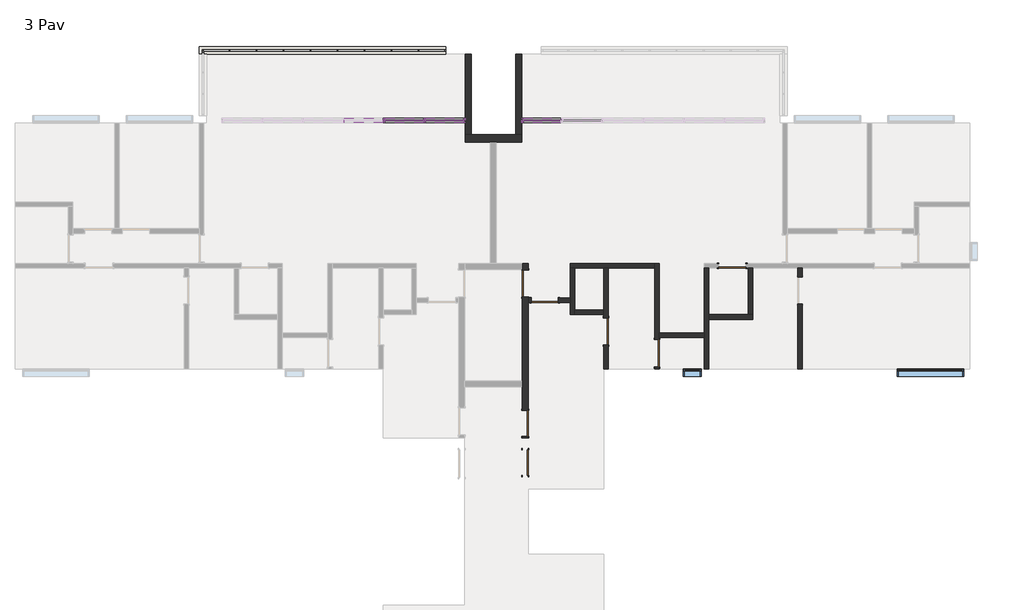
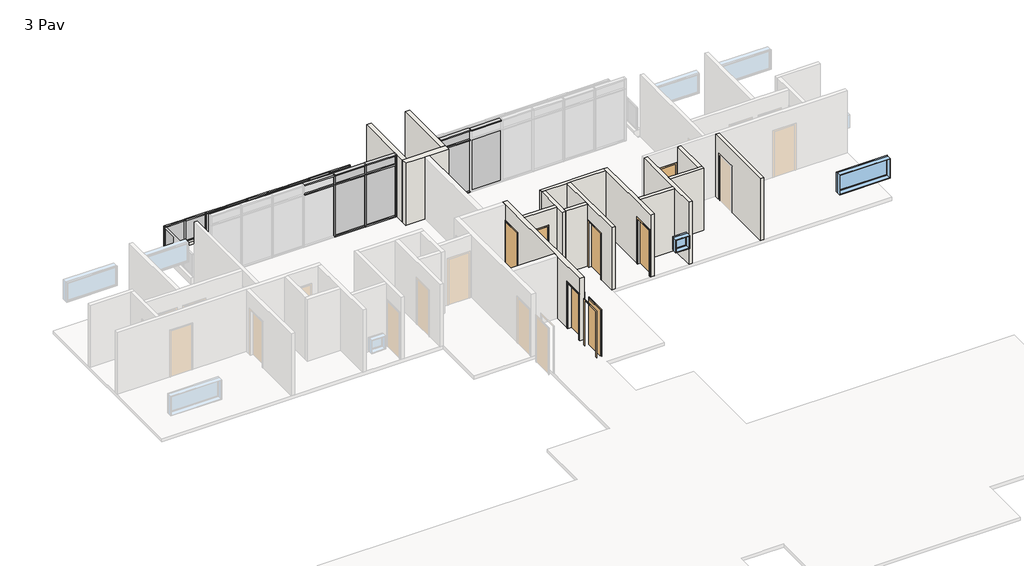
# One storey, part 5 of 6: 50 members, 17 plates, 16 walls, 7 doors, 2 windows.
"""IFC4 building model written with IfcOpenShell, lengths in millimetres."""

from ifc_helpers import new_model, si_unit, frame, origin, place, context, project, spatial, polyline, outline, extrude, faceted_brep, transform, mapped, element, save
from components import door_85_x_210_ba3adec2, door_85_x_210_7675e995, door_90_x_210_2c83007d, door_90_x_210_ee935524, door_90_x_210_565370b3, montante_retangular_50_mm_quadrado_4acded50, montante_retangular_50_mm_quadrado_237d7072, montante_retangular_50_mm_quadrado_84e40a56, montante_retangular_50_mm_quadrado_3d152aff, montante_retangular_50_mm_quadrado_a01005a4, montante_retangular_50_x_150_mm_6217edde, montante_retangular_50_x_150_mm_a22249d7, montante_retangular_50_x_150_mm_6225e4e3, montante_retangular_50_x_150_mm_662c37b1, montante_retangular_50_x_150_mm_567eccab, montante_retangular_50_x_150_mm_1ca2bba2, montante_retangular_50_x_150_mm_6abf4531, montante_retangular_50_x_150_mm_0a8c3443, painel_do_sistema_57ceaf50, painel_do_sistema_ab0ed719, painel_do_sistema_0196877a, painel_do_sistema_1ecb5f42, painel_do_sistema_49db1829, painel_do_sistema_5ea5287b, painel_do_sistema_7730abee, window_0610_x_0610_mm_b5667cc9, window_220_x_90_cea65aae

model = new_model("IFC4")

# Units and contexts
model_context = context("Model", 3, world=origin())
ifc_project = project(units=[si_unit("LENGTHUNIT", "METRE", prefix="MILLI")], contexts=[model_context])

# Site, building, storey
site = spatial("IfcSite", under=ifc_project)
building = spatial("IfcBuilding", under=site)
storey = spatial("IfcBuildingStorey", under=building, Name="3 Pav", Elevation=9000.0)

# Doors
placement = place(None, origin())
door_85_x_210_shape = door_85_x_210_ba3adec2(model_context)
element("IfcDoor", 1, ObjectType="M_Descarga simples : 85 x 210", at=placement, inside=storey, context=model_context, shape_type="MappedRepresentation", body=[
    mapped(door_85_x_210_shape, transform((23.7734258, 2728.6614625, 9000.0), x_axis=(0.0, 1.0, 0.0), y_axis=(-1.0, 0.0, 0.0), z_axis=(0.0, 0.0, 1.0))),
])
door_85_x_210_2_shape = door_85_x_210_7675e995(model_context)
element("IfcDoor", 2, ObjectType="M_Descarga simples : 85 x 210", at=placement, inside=storey, context=model_context, shape_type="MappedRepresentation", body=[
    mapped(door_85_x_210_2_shape, transform((23.7734258, 4028.6614625, 9000.0), x_axis=(0.0, -1.0, 0.0), y_axis=(1.0, 0.0, 0.0), z_axis=(0.0, 0.0, 1.0))),
])
door_90_x_210_shape = door_90_x_210_2c83007d(model_context)
element("IfcDoor", 3, ObjectType="M_Descarga simples : 90 x 210", at=placement, inside=storey, context=model_context, shape_type="MappedRepresentation", body=[
    mapped(door_90_x_210_shape, transform((23.7734258, 8673.2521762, 9000.0), x_axis=(0.0, 1.0, 0.0), y_axis=(-1.0, 0.0, 0.0), z_axis=(0.0, 0.0, 1.0))),
])
door_90_x_210_2_shape = door_90_x_210_ee935524(model_context)
element("IfcDoor", 4, ObjectType="M_Descarga simples : 90 x 210", at=placement, inside=storey, context=model_context, shape_type="MappedRepresentation", body=[
    mapped(door_90_x_210_2_shape, transform((673.7734258, 8118.6614625, 9000.0), x_axis=(-1.0, 0.0, 0.0), y_axis=(0.0, -1.0, 0.0), z_axis=(0.0, 0.0, 1.0))),
])
element("IfcDoor", 5, ObjectType="M_Descarga simples : 90 x 210", at=placement, inside=storey, context=model_context, shape_type="MappedRepresentation", body=[
    mapped(door_90_x_210_2_shape, transform((2698.7734258, 7083.6614625, 9000.0), x_axis=(0.0, -1.0, 0.0), y_axis=(1.0, 0.0, 0.0), z_axis=(0.0, 0.0, 1.0))),
])
element("IfcDoor", 6, ObjectType="M_Descarga simples : 90 x 210", at=placement, inside=storey, context=model_context, shape_type="MappedRepresentation", body=[
    mapped(door_90_x_210_2_shape, transform((4388.7734258, 6358.6614625, 9000.0), x_axis=(0.0, -1.0, 0.0), y_axis=(1.0, 0.0, 0.0), z_axis=(0.0, 0.0, 1.0))),
])
door_90_x_210_3_shape = door_90_x_210_565370b3(model_context)
element("IfcDoor", 7, ObjectType="M_Descarga simples : 90 x 210", at=placement, inside=storey, context=model_context, shape_type="MappedRepresentation", body=[
    mapped(door_90_x_210_3_shape, transform((6883.7734258, 9258.6614625, 9000.0), x_axis=(1.0, 0.0, 0.0), y_axis=(0.0, 1.0, 0.0), z_axis=(0.0, 0.0, 1.0))),
])

# Members
montante_retangular_50_mm_quadrado_shape = montante_retangular_50_mm_quadrado_4acded50(model_context)
element("IfcMember", 8, ObjectType="Montante retangular : 50 mm Quadrado", at=placement, inside=storey, context=model_context, shape_type="MappedRepresentation", body=[
    mapped(montante_retangular_50_mm_quadrado_shape, transform((-10616.2265742, 16403.6614625, 10150.0), x_axis=(0.0, 0.0, 1.0), y_axis=(0.0, 1.0, 0.0), z_axis=(-1.0, 0.0, 0.0))),
])
element("IfcMember", 9, ObjectType="Montante retangular : 50 mm Quadrado", at=placement, inside=storey, context=model_context, shape_type="MappedRepresentation", body=[
    mapped(montante_retangular_50_mm_quadrado_shape, transform((-3481.2265742, 16403.6614625, 10150.0), x_axis=(0.0, 0.0, 1.0), y_axis=(0.0, 1.0, 0.0), z_axis=(-1.0, 0.0, 0.0))),
])
montante_retangular_50_mm_quadrado_2_shape = montante_retangular_50_mm_quadrado_237d7072(model_context)
element("IfcMember", 10, ObjectType="Montante retangular : 50 mm Quadrado", at=placement, inside=storey, context=model_context, shape_type="MappedRepresentation", body=[
    mapped(montante_retangular_50_mm_quadrado_2_shape, transform((-4376.2265742, 16403.6614625, 10150.0), x_axis=(0.0, 0.0, 1.0), y_axis=(0.0, 1.0, 0.0), z_axis=(-1.0, 0.0, 0.0))),
])
element("IfcMember", 11, ObjectType="Montante retangular : 50 mm Quadrado", at=placement, inside=storey, context=model_context, shape_type="MappedRepresentation", body=[
    mapped(montante_retangular_50_mm_quadrado_2_shape, transform((-5271.2265742, 16403.6614625, 10150.0), x_axis=(0.0, 0.0, 1.0), y_axis=(0.0, 1.0, 0.0), z_axis=(-1.0, 0.0, 0.0))),
])
element("IfcMember", 12, ObjectType="Montante retangular : 50 mm Quadrado", at=placement, inside=storey, context=model_context, shape_type="MappedRepresentation", body=[
    mapped(montante_retangular_50_mm_quadrado_2_shape, transform((-6166.2265742, 16403.6614625, 10150.0), x_axis=(0.0, 0.0, 1.0), y_axis=(0.0, 1.0, 0.0), z_axis=(-1.0, 0.0, 0.0))),
])
element("IfcMember", 13, ObjectType="Montante retangular : 50 mm Quadrado", at=placement, inside=storey, context=model_context, shape_type="MappedRepresentation", body=[
    mapped(montante_retangular_50_mm_quadrado_2_shape, transform((-7061.2265742, 16403.6614625, 10150.0), x_axis=(0.0, 0.0, 1.0), y_axis=(0.0, 1.0, 0.0), z_axis=(-1.0, 0.0, 0.0))),
])
element("IfcMember", 14, ObjectType="Montante retangular : 50 mm Quadrado", at=placement, inside=storey, context=model_context, shape_type="MappedRepresentation", body=[
    mapped(montante_retangular_50_mm_quadrado_2_shape, transform((-7956.2265742, 16403.6614625, 10150.0), x_axis=(0.0, 0.0, 1.0), y_axis=(0.0, 1.0, 0.0), z_axis=(-1.0, 0.0, 0.0))),
])
element("IfcMember", 15, ObjectType="Montante retangular : 50 mm Quadrado", at=placement, inside=storey, context=model_context, shape_type="MappedRepresentation", body=[
    mapped(montante_retangular_50_mm_quadrado_2_shape, transform((-8851.2265742, 16403.6614625, 10150.0), x_axis=(0.0, 0.0, 1.0), y_axis=(0.0, 1.0, 0.0), z_axis=(-1.0, 0.0, 0.0))),
])
element("IfcMember", 16, ObjectType="Montante retangular : 50 mm Quadrado", at=placement, inside=storey, context=model_context, shape_type="MappedRepresentation", body=[
    mapped(montante_retangular_50_mm_quadrado_2_shape, transform((-9746.2265742, 16403.6614625, 10150.0), x_axis=(0.0, 0.0, 1.0), y_axis=(0.0, 1.0, 0.0), z_axis=(-1.0, 0.0, 0.0))),
])
element("IfcMember", 17, ObjectType="Montante retangular : 50 mm Quadrado", at=placement, inside=storey, context=model_context, shape_type="MappedRepresentation", body=[
    mapped(montante_retangular_50_mm_quadrado_shape, transform((-2661.2265742, 16403.6614625, 9150.0), x_axis=(0.0, 0.0, -1.0), y_axis=(0.0, 1.0, 0.0), z_axis=(1.0, 0.0, 0.0))),
])
element("IfcMember", 18, ObjectType="Montante retangular : 50 mm Quadrado", at=placement, inside=storey, context=model_context, shape_type="MappedRepresentation", body=[
    mapped(montante_retangular_50_mm_quadrado_shape, transform((-9796.2265742, 16403.6614625, 9150.0), x_axis=(0.0, 0.0, -1.0), y_axis=(0.0, 1.0, 0.0), z_axis=(1.0, 0.0, 0.0))),
])
element("IfcMember", 19, ObjectType="Montante retangular : 50 mm Quadrado", at=placement, inside=storey, context=model_context, shape_type="MappedRepresentation", body=[
    mapped(montante_retangular_50_mm_quadrado_2_shape, transform((-3531.2265742, 16403.6614625, 9150.0), x_axis=(0.0, 0.0, -1.0), y_axis=(0.0, 1.0, 0.0), z_axis=(1.0, 0.0, 0.0))),
])
element("IfcMember", 20, ObjectType="Montante retangular : 50 mm Quadrado", at=placement, inside=storey, context=model_context, shape_type="MappedRepresentation", body=[
    mapped(montante_retangular_50_mm_quadrado_2_shape, transform((-4426.2265742, 16403.6614625, 9150.0), x_axis=(0.0, 0.0, -1.0), y_axis=(0.0, 1.0, 0.0), z_axis=(1.0, 0.0, 0.0))),
])
element("IfcMember", 21, ObjectType="Montante retangular : 50 mm Quadrado", at=placement, inside=storey, context=model_context, shape_type="MappedRepresentation", body=[
    mapped(montante_retangular_50_mm_quadrado_2_shape, transform((-5321.2265742, 16403.6614625, 9150.0), x_axis=(0.0, 0.0, -1.0), y_axis=(0.0, 1.0, 0.0), z_axis=(1.0, 0.0, 0.0))),
])
element("IfcMember", 22, ObjectType="Montante retangular : 50 mm Quadrado", at=placement, inside=storey, context=model_context, shape_type="MappedRepresentation", body=[
    mapped(montante_retangular_50_mm_quadrado_2_shape, transform((-6216.2265742, 16403.6614625, 9150.0), x_axis=(0.0, 0.0, -1.0), y_axis=(0.0, 1.0, 0.0), z_axis=(1.0, 0.0, 0.0))),
])
element("IfcMember", 23, ObjectType="Montante retangular : 50 mm Quadrado", at=placement, inside=storey, context=model_context, shape_type="MappedRepresentation", body=[
    mapped(montante_retangular_50_mm_quadrado_2_shape, transform((-7111.2265742, 16403.6614625, 9150.0), x_axis=(0.0, 0.0, -1.0), y_axis=(0.0, 1.0, 0.0), z_axis=(1.0, 0.0, 0.0))),
])
element("IfcMember", 24, ObjectType="Montante retangular : 50 mm Quadrado", at=placement, inside=storey, context=model_context, shape_type="MappedRepresentation", body=[
    mapped(montante_retangular_50_mm_quadrado_2_shape, transform((-8006.2265742, 16403.6614625, 9150.0), x_axis=(0.0, 0.0, -1.0), y_axis=(0.0, 1.0, 0.0), z_axis=(1.0, 0.0, 0.0))),
])
element("IfcMember", 25, ObjectType="Montante retangular : 50 mm Quadrado", at=placement, inside=storey, context=model_context, shape_type="MappedRepresentation", body=[
    mapped(montante_retangular_50_mm_quadrado_2_shape, transform((-8901.2265742, 16403.6614625, 9150.0), x_axis=(0.0, 0.0, -1.0), y_axis=(0.0, 1.0, 0.0), z_axis=(1.0, 0.0, 0.0))),
])
montante_retangular_50_mm_quadrado_3_shape = montante_retangular_50_mm_quadrado_84e40a56(model_context)
element("IfcMember", 26, ObjectType="Montante retangular : 50 mm Quadrado", at=placement, inside=storey, context=model_context, shape_type="MappedRepresentation", body=[
    mapped(montante_retangular_50_mm_quadrado_3_shape, transform((-3506.2265742, 16403.6614625, 9150.0), x_axis=(-1.0, 0.0, 0.0), y_axis=(0.0, 1.0, 0.0), z_axis=(0.0, 0.0, -1.0))),
])
element("IfcMember", 27, ObjectType="Montante retangular : 50 mm Quadrado", at=placement, inside=storey, context=model_context, shape_type="MappedRepresentation", body=[
    mapped(montante_retangular_50_mm_quadrado_3_shape, transform((-4401.2265742, 16403.6614625, 9150.0), x_axis=(-1.0, 0.0, 0.0), y_axis=(0.0, 1.0, 0.0), z_axis=(0.0, 0.0, -1.0))),
])
element("IfcMember", 28, ObjectType="Montante retangular : 50 mm Quadrado", at=placement, inside=storey, context=model_context, shape_type="MappedRepresentation", body=[
    mapped(montante_retangular_50_mm_quadrado_3_shape, transform((-5296.2265742, 16403.6614625, 9150.0), x_axis=(-1.0, 0.0, 0.0), y_axis=(0.0, 1.0, 0.0), z_axis=(0.0, 0.0, -1.0))),
])
element("IfcMember", 29, ObjectType="Montante retangular : 50 mm Quadrado", at=placement, inside=storey, context=model_context, shape_type="MappedRepresentation", body=[
    mapped(montante_retangular_50_mm_quadrado_3_shape, transform((-6191.2265742, 16403.6614625, 9150.0), x_axis=(-1.0, 0.0, 0.0), y_axis=(0.0, 1.0, 0.0), z_axis=(0.0, 0.0, -1.0))),
])
element("IfcMember", 30, ObjectType="Montante retangular : 50 mm Quadrado", at=placement, inside=storey, context=model_context, shape_type="MappedRepresentation", body=[
    mapped(montante_retangular_50_mm_quadrado_3_shape, transform((-7086.2265742, 16403.6614625, 9150.0), x_axis=(-1.0, 0.0, 0.0), y_axis=(0.0, 1.0, 0.0), z_axis=(0.0, 0.0, -1.0))),
])
element("IfcMember", 31, ObjectType="Montante retangular : 50 mm Quadrado", at=placement, inside=storey, context=model_context, shape_type="MappedRepresentation", body=[
    mapped(montante_retangular_50_mm_quadrado_3_shape, transform((-7981.2265742, 16403.6614625, 9150.0), x_axis=(-1.0, 0.0, 0.0), y_axis=(0.0, 1.0, 0.0), z_axis=(0.0, 0.0, -1.0))),
])
element("IfcMember", 32, ObjectType="Montante retangular : 50 mm Quadrado", at=placement, inside=storey, context=model_context, shape_type="MappedRepresentation", body=[
    mapped(montante_retangular_50_mm_quadrado_3_shape, transform((-8876.2265742, 16403.6614625, 9150.0), x_axis=(-1.0, 0.0, 0.0), y_axis=(0.0, 1.0, 0.0), z_axis=(0.0, 0.0, -1.0))),
])
element("IfcMember", 33, ObjectType="Montante retangular : 50 mm Quadrado", at=placement, inside=storey, context=model_context, shape_type="MappedRepresentation", body=[
    mapped(montante_retangular_50_mm_quadrado_3_shape, transform((-9771.2265742, 16403.6614625, 9150.0), x_axis=(-1.0, 0.0, 0.0), y_axis=(0.0, 1.0, 0.0), z_axis=(0.0, 0.0, -1.0))),
])
montante_retangular_50_mm_quadrado_4_shape = montante_retangular_50_mm_quadrado_3d152aff(model_context)
element("IfcMember", 34, ObjectType="Montante retangular : 50 mm Quadrado", at=placement, inside=storey, context=model_context, shape_type="MappedRepresentation", body=[
    mapped(montante_retangular_50_mm_quadrado_4_shape, transform((-10666.2265742, 16403.6614625, 9150.0), x_axis=(-1.0, 0.0, 0.0), y_axis=(0.0, 1.0, 0.0), z_axis=(0.0, 0.0, -1.0))),
])
element("IfcMember", 35, ObjectType="Montante retangular : 50 mm Quadrado", at=placement, inside=storey, context=model_context, shape_type="MappedRepresentation", body=[
    mapped(montante_retangular_50_mm_quadrado_4_shape, transform((-10641.2265742, 16378.6614625, 10150.0), x_axis=(0.0, 1.0, 0.0), y_axis=(-1.0, 0.0, 0.0), z_axis=(0.0, 0.0, 1.0))),
])
element("IfcMember", 36, ObjectType="Montante retangular : 50 mm Quadrado", at=placement, inside=storey, context=model_context, shape_type="MappedRepresentation", body=[
    mapped(montante_retangular_50_mm_quadrado_4_shape, transform((-2611.2265742, 16403.6614625, 10150.0), x_axis=(1.0, 0.0, 0.0), y_axis=(0.0, 1.0, 0.0), z_axis=(0.0, 0.0, 1.0))),
])
montante_retangular_50_mm_quadrado_5_shape = montante_retangular_50_mm_quadrado_a01005a4(model_context)
element("IfcMember", 37, ObjectType="Montante retangular : 50 mm Quadrado", at=placement, inside=storey, context=model_context, shape_type="MappedRepresentation", body=[
    mapped(montante_retangular_50_mm_quadrado_5_shape, transform((-10641.2265742, 16328.6614625, 9150.0), x_axis=(0.0, 0.0, -1.0), y_axis=(-1.0, 0.0, 0.0), z_axis=(0.0, 1.0, 0.0))),
])
montante_retangular_50_x_150_mm_shape = montante_retangular_50_x_150_mm_6217edde(model_context)
element("IfcMember", 38, ObjectType="Montante retangular : 50 x 150 mm", at=placement, inside=storey, context=model_context, shape_type="MappedRepresentation", body=[
    mapped(montante_retangular_50_x_150_mm_shape, transform((-41.2265742, 14083.6614625, 11850.0), x_axis=(0.0, 0.0, 1.0), y_axis=(0.0, 1.0, 0.0), z_axis=(-1.0, 0.0, 0.0))),
])
montante_retangular_50_x_150_mm_2_shape = montante_retangular_50_x_150_mm_a22249d7(model_context)
element("IfcMember", 39, ObjectType="Montante retangular : 50 x 150 mm", at=placement, inside=storey, context=model_context, shape_type="MappedRepresentation", body=[
    mapped(montante_retangular_50_x_150_mm_2_shape, transform((1277.9400925, 14083.6614625, 11850.0), x_axis=(0.0, 0.0, 1.0), y_axis=(0.0, 1.0, 0.0), z_axis=(-1.0, 0.0, 0.0))),
])
element("IfcMember", 40, ObjectType="Montante retangular : 50 x 150 mm", at=placement, inside=storey, context=model_context, shape_type="MappedRepresentation", body=[
    mapped(montante_retangular_50_x_150_mm_shape, transform((1227.9400925, 14083.6614625, 9000.0), x_axis=(0.0, 0.0, -1.0), y_axis=(0.0, 1.0, 0.0), z_axis=(1.0, 0.0, 0.0))),
])
element("IfcMember", 41, ObjectType="Montante retangular : 50 x 150 mm", at=placement, inside=storey, context=model_context, shape_type="MappedRepresentation", body=[
    mapped(montante_retangular_50_x_150_mm_shape, transform((-2011.2265742, 14083.6614625, 11850.0), x_axis=(0.0, 0.0, 1.0), y_axis=(0.0, -1.0, 0.0), z_axis=(1.0, 0.0, 0.0))),
])
element("IfcMember", 42, ObjectType="Montante retangular : 50 x 150 mm", at=placement, inside=storey, context=model_context, shape_type="MappedRepresentation", body=[
    mapped(montante_retangular_50_x_150_mm_2_shape, transform((-4674.5599075, 14083.6614625, 11850.0), x_axis=(0.0, 0.0, 1.0), y_axis=(0.0, -1.0, 0.0), z_axis=(1.0, 0.0, 0.0))),
])
element("IfcMember", 43, ObjectType="Montante retangular : 50 x 150 mm", at=placement, inside=storey, context=model_context, shape_type="MappedRepresentation", body=[
    mapped(montante_retangular_50_x_150_mm_2_shape, transform((-3330.3932408, 14083.6614625, 11850.0), x_axis=(0.0, 0.0, 1.0), y_axis=(0.0, -1.0, 0.0), z_axis=(1.0, 0.0, 0.0))),
])
element("IfcMember", 44, ObjectType="Montante retangular : 50 x 150 mm", at=placement, inside=storey, context=model_context, shape_type="MappedRepresentation", body=[
    mapped(montante_retangular_50_x_150_mm_shape, transform((-3280.3932408, 14083.6614625, 9000.0), x_axis=(0.0, 0.0, -1.0), y_axis=(0.0, -1.0, 0.0), z_axis=(-1.0, 0.0, 0.0))),
])
element("IfcMember", 45, ObjectType="Montante retangular : 50 x 150 mm", at=placement, inside=storey, context=model_context, shape_type="MappedRepresentation", body=[
    mapped(montante_retangular_50_x_150_mm_2_shape, transform((-4624.5599075, 14083.6614625, 9000.0), x_axis=(0.0, 0.0, -1.0), y_axis=(0.0, -1.0, 0.0), z_axis=(-1.0, 0.0, 0.0))),
])
montante_retangular_50_x_150_mm_3_shape = montante_retangular_50_x_150_mm_6225e4e3(model_context)
element("IfcMember", 46, ObjectType="Montante retangular : 50 x 150 mm", at=placement, inside=storey, context=model_context, shape_type="MappedRepresentation", body=[
    mapped(montante_retangular_50_x_150_mm_3_shape, transform((-4649.5599075, 14083.6614625, 9000.0), x_axis=(1.0, 0.0, 0.0), y_axis=(0.0, -1.0, 0.0), z_axis=(0.0, 0.0, -1.0))),
])
element("IfcMember", 47, ObjectType="Montante retangular : 50 x 150 mm", at=placement, inside=storey, context=model_context, shape_type="MappedRepresentation", body=[
    mapped(montante_retangular_50_x_150_mm_3_shape, transform((-3305.3932408, 14083.6614625, 9000.0), x_axis=(1.0, 0.0, 0.0), y_axis=(0.0, -1.0, 0.0), z_axis=(0.0, 0.0, -1.0))),
])
montante_retangular_50_x_150_mm_4_shape = montante_retangular_50_x_150_mm_662c37b1(model_context)
element("IfcMember", 48, ObjectType="Montante retangular : 50 x 150 mm", at=placement, inside=storey, context=model_context, shape_type="MappedRepresentation", body=[
    mapped(montante_retangular_50_x_150_mm_4_shape, transform((-1961.2265742, 14083.6614625, 9000.0), x_axis=(1.0, 0.0, 0.0), y_axis=(0.0, -1.0, 0.0), z_axis=(0.0, 0.0, -1.0))),
])
element("IfcMember", 49, ObjectType="Montante retangular : 50 x 150 mm", at=placement, inside=storey, context=model_context, shape_type="MappedRepresentation", body=[
    mapped(montante_retangular_50_x_150_mm_4_shape, transform((-91.2265742, 14083.6614625, 9000.0), x_axis=(-1.0, 0.0, 0.0), y_axis=(0.0, 1.0, 0.0), z_axis=(0.0, 0.0, -1.0))),
])
montante_retangular_50_x_150_mm_5_shape = montante_retangular_50_x_150_mm_567eccab(model_context)
element("IfcMember", 50, ObjectType="Montante retangular : 50 x 150 mm", at=placement, inside=storey, context=model_context, shape_type="MappedRepresentation", body=[
    mapped(montante_retangular_50_x_150_mm_5_shape, transform((-4649.5599075, 14083.6614625, 11400.0), x_axis=(1.0, 0.0, 0.0), y_axis=(0.0, -1.0, 0.0), z_axis=(0.0, 0.0, -1.0))),
])
element("IfcMember", 51, ObjectType="Montante retangular : 50 x 150 mm", at=placement, inside=storey, context=model_context, shape_type="MappedRepresentation", body=[
    mapped(montante_retangular_50_x_150_mm_5_shape, transform((-3305.3932408, 14083.6614625, 11400.0), x_axis=(1.0, 0.0, 0.0), y_axis=(0.0, -1.0, 0.0), z_axis=(0.0, 0.0, -1.0))),
])
montante_retangular_50_x_150_mm_6_shape = montante_retangular_50_x_150_mm_1ca2bba2(model_context)
element("IfcMember", 52, ObjectType="Montante retangular : 50 x 150 mm", at=placement, inside=storey, context=model_context, shape_type="MappedRepresentation", body=[
    mapped(montante_retangular_50_x_150_mm_6_shape, transform((-2011.2265742, 14083.6614625, 11400.0), x_axis=(0.0, 0.0, 1.0), y_axis=(0.0, -1.0, 0.0), z_axis=(1.0, 0.0, 0.0))),
])
montante_retangular_50_x_150_mm_7_shape = montante_retangular_50_x_150_mm_6abf4531(model_context)
element("IfcMember", 53, ObjectType="Montante retangular : 50 x 150 mm", at=placement, inside=storey, context=model_context, shape_type="MappedRepresentation", body=[
    mapped(montante_retangular_50_x_150_mm_7_shape, transform((-4674.5599075, 14083.6614625, 11400.0), x_axis=(0.0, 0.0, 1.0), y_axis=(0.0, -1.0, 0.0), z_axis=(1.0, 0.0, 0.0))),
])
element("IfcMember", 54, ObjectType="Montante retangular : 50 x 150 mm", at=placement, inside=storey, context=model_context, shape_type="MappedRepresentation", body=[
    mapped(montante_retangular_50_x_150_mm_7_shape, transform((-3330.3932408, 14083.6614625, 11400.0), x_axis=(0.0, 0.0, 1.0), y_axis=(0.0, -1.0, 0.0), z_axis=(1.0, 0.0, 0.0))),
])
element("IfcMember", 55, ObjectType="Montante retangular : 50 x 150 mm", at=placement, inside=storey, context=model_context, shape_type="MappedRepresentation", body=[
    mapped(montante_retangular_50_x_150_mm_6_shape, transform((-41.2265742, 14083.6614625, 11400.0), x_axis=(0.0, 0.0, 1.0), y_axis=(0.0, 1.0, 0.0), z_axis=(-1.0, 0.0, 0.0))),
])
montante_retangular_50_x_150_mm_8_shape = montante_retangular_50_x_150_mm_0a8c3443(model_context)
element("IfcMember", 56, ObjectType="Montante retangular : 50 x 150 mm", at=placement, inside=storey, context=model_context, shape_type="MappedRepresentation", body=[
    mapped(montante_retangular_50_x_150_mm_8_shape, transform((-91.2265742, 14083.6614625, 11400.0), x_axis=(-1.0, 0.0, 0.0), y_axis=(0.0, 1.0, 0.0), z_axis=(0.0, 0.0, -1.0))),
])
element("IfcMember", 57, ObjectType="Montante retangular : 50 x 150 mm", at=placement, inside=storey, context=model_context, shape_type="MappedRepresentation", body=[
    mapped(montante_retangular_50_x_150_mm_8_shape, transform((-1961.2265742, 14083.6614625, 11400.0), x_axis=(1.0, 0.0, 0.0), y_axis=(0.0, -1.0, 0.0), z_axis=(0.0, 0.0, -1.0))),
])

# Plates
painel_do_sistema_shape = painel_do_sistema_57ceaf50(model_context)
element("IfcPlate", 58, ObjectType="Painel do sistema : Envidraçado", at=placement, inside=storey, context=model_context, shape_type="MappedRepresentation", body=[
    mapped(painel_do_sistema_shape, transform((-3071.2265742, 16403.6614625, 9200.0), x_axis=(-1.0, 0.0, 0.0), y_axis=(0.0, -1.0, 0.0), z_axis=(0.0, 0.0, 1.0))),
])
element("IfcPlate", 59, ObjectType="Painel do sistema : Envidraçado", at=placement, inside=storey, context=model_context, shape_type="MappedRepresentation", body=[
    mapped(painel_do_sistema_shape, transform((-10206.2265742, 16403.6614625, 9200.0), x_axis=(-1.0, 0.0, 0.0), y_axis=(0.0, -1.0, 0.0), z_axis=(0.0, 0.0, 1.0))),
])
painel_do_sistema_2_shape = painel_do_sistema_ab0ed719(model_context)
element("IfcPlate", 60, ObjectType="Painel do sistema : Envidraçado", at=placement, inside=storey, context=model_context, shape_type="MappedRepresentation", body=[
    mapped(painel_do_sistema_2_shape, transform((-3953.7265742, 16403.6614625, 9200.0), x_axis=(-1.0, 0.0, 0.0), y_axis=(0.0, -1.0, 0.0), z_axis=(0.0, 0.0, 1.0))),
])
element("IfcPlate", 61, ObjectType="Painel do sistema : Envidraçado", at=placement, inside=storey, context=model_context, shape_type="MappedRepresentation", body=[
    mapped(painel_do_sistema_2_shape, transform((-4848.7265742, 16403.6614625, 9200.0), x_axis=(-1.0, 0.0, 0.0), y_axis=(0.0, -1.0, 0.0), z_axis=(0.0, 0.0, 1.0))),
])
element("IfcPlate", 62, ObjectType="Painel do sistema : Envidraçado", at=placement, inside=storey, context=model_context, shape_type="MappedRepresentation", body=[
    mapped(painel_do_sistema_2_shape, transform((-5743.7265742, 16403.6614625, 9200.0), x_axis=(-1.0, 0.0, 0.0), y_axis=(0.0, -1.0, 0.0), z_axis=(0.0, 0.0, 1.0))),
])
element("IfcPlate", 63, ObjectType="Painel do sistema : Envidraçado", at=placement, inside=storey, context=model_context, shape_type="MappedRepresentation", body=[
    mapped(painel_do_sistema_2_shape, transform((-6638.7265742, 16403.6614625, 9200.0), x_axis=(-1.0, 0.0, 0.0), y_axis=(0.0, -1.0, 0.0), z_axis=(0.0, 0.0, 1.0))),
])
element("IfcPlate", 64, ObjectType="Painel do sistema : Envidraçado", at=placement, inside=storey, context=model_context, shape_type="MappedRepresentation", body=[
    mapped(painel_do_sistema_2_shape, transform((-7533.7265742, 16403.6614625, 9200.0), x_axis=(-1.0, 0.0, 0.0), y_axis=(0.0, -1.0, 0.0), z_axis=(0.0, 0.0, 1.0))),
])
element("IfcPlate", 65, ObjectType="Painel do sistema : Envidraçado", at=placement, inside=storey, context=model_context, shape_type="MappedRepresentation", body=[
    mapped(painel_do_sistema_2_shape, transform((-8428.7265742, 16403.6614625, 9200.0), x_axis=(-1.0, 0.0, 0.0), y_axis=(0.0, -1.0, 0.0), z_axis=(0.0, 0.0, 1.0))),
])
element("IfcPlate", 66, ObjectType="Painel do sistema : Envidraçado", at=placement, inside=storey, context=model_context, shape_type="MappedRepresentation", body=[
    mapped(painel_do_sistema_2_shape, transform((-9323.7265742, 16403.6614625, 9200.0), x_axis=(-1.0, 0.0, 0.0), y_axis=(0.0, -1.0, 0.0), z_axis=(0.0, 0.0, 1.0))),
])
painel_do_sistema_3_shape = painel_do_sistema_0196877a(model_context)
element("IfcPlate", 67, ObjectType="Painel do sistema : Envidraçado", at=placement, inside=storey, context=model_context, shape_type="MappedRepresentation", body=[
    mapped(painel_do_sistema_3_shape, transform((-10641.2265742, 16008.6614625, 9200.0), x_axis=(0.0, -1.0, 0.0), y_axis=(1.0, 0.0, 0.0), z_axis=(0.0, 0.0, 1.0))),
])
painel_do_sistema_4_shape = painel_do_sistema_1ecb5f42(model_context)
element("IfcPlate", 68, ObjectType="Painel do sistema : Envidraçado", at=placement, inside=storey, context=model_context, shape_type="MappedRepresentation", body=[
    mapped(painel_do_sistema_4_shape, transform((-2645.8099075, 14083.6614625, 9050.0), x_axis=(1.0, 0.0, 0.0), y_axis=(0.0, 1.0, 0.0), z_axis=(0.0, 0.0, 1.0))),
])
painel_do_sistema_5_shape = painel_do_sistema_49db1829(model_context)
element("IfcPlate", 69, ObjectType="Painel do sistema : Envidraçado", at=placement, inside=storey, context=model_context, shape_type="MappedRepresentation", body=[
    mapped(painel_do_sistema_5_shape, transform((-3977.4765742, 14083.6614625, 9050.0), x_axis=(1.0, 0.0, 0.0), y_axis=(0.0, 1.0, 0.0), z_axis=(0.0, 0.0, 1.0))),
])
painel_do_sistema_6_shape = painel_do_sistema_5ea5287b(model_context)
element("IfcPlate", 70, ObjectType="Painel do sistema : Envidraçado", at=placement, inside=storey, context=model_context, shape_type="MappedRepresentation", body=[
    mapped(painel_do_sistema_6_shape, transform((-2645.8099075, 14083.6614625, 11425.0), x_axis=(1.0, 0.0, 0.0), y_axis=(0.0, 1.0, 0.0), z_axis=(0.0, 0.0, 1.0))),
])
painel_do_sistema_7_shape = painel_do_sistema_7730abee(model_context)
element("IfcPlate", 71, ObjectType="Painel do sistema : Envidraçado", at=placement, inside=storey, context=model_context, shape_type="MappedRepresentation", body=[
    mapped(painel_do_sistema_7_shape, transform((-3977.4765742, 14083.6614625, 11425.0), x_axis=(1.0, 0.0, 0.0), y_axis=(0.0, 1.0, 0.0), z_axis=(0.0, 0.0, 1.0))),
])
element("IfcPlate", 72, ObjectType="Painel do sistema : Envidraçado", at=placement, inside=storey, context=model_context, shape_type="MappedRepresentation", body=[
    mapped(painel_do_sistema_4_shape, transform((593.3567592, 14083.6614625, 9050.0), x_axis=(-1.0, 0.0, 0.0), y_axis=(0.0, -1.0, 0.0), z_axis=(0.0, 0.0, 1.0))),
])
element("IfcPlate", 73, ObjectType="Painel do sistema : Envidraçado", at=placement, inside=storey, context=model_context, shape_type="MappedRepresentation", body=[
    mapped(painel_do_sistema_5_shape, transform((1925.0234258, 14083.6614625, 9050.0), x_axis=(-1.0, 0.0, 0.0), y_axis=(0.0, -1.0, 0.0), z_axis=(0.0, 0.0, 1.0))),
])
element("IfcPlate", 74, ObjectType="Painel do sistema : Envidraçado", at=placement, inside=storey, context=model_context, shape_type="MappedRepresentation", body=[
    mapped(painel_do_sistema_6_shape, transform((593.3567592, 14083.6614625, 11425.0), x_axis=(-1.0, 0.0, 0.0), y_axis=(0.0, -1.0, 0.0), z_axis=(0.0, 0.0, 1.0))),
])

# Walls
element("IfcWall", 75, ObjectType="Exeterna 25", at=placement, inside=storey, context=model_context, shape_type="Brep", body=[
    faceted_brep([(-2611.2265742, 16528.6614625, 8850.0), (-10766.2265742, 16528.6614625, 8850.0), (-10766.2265742, 16528.6614625, 9150.0), (-2611.2265742, 16528.6614625, 9150.0), (-2611.2265742, 16278.6614625, 8850.0), (-2611.2265742, 16278.6614625, 9150.0), (-10516.2265742, 16278.6614625, 9150.0), (-10766.2265742, 16278.6614625, 9150.0), (-10766.2265742, 16278.6614625, 8850.0), (-10516.2265742, 16278.6614625, 8850.0)], [[[0, 1, 2, 3]], [[4, 5, 6, 7, 8, 9]], [[1, 0, 4, 9, 8]], [[3, 2, 7, 6, 5]], [[0, 3, 5, 4]], [[2, 1, 8, 7]]]),
])
element("IfcWall", 76, ObjectType="Exeterna 25", at=placement, inside=storey, context=model_context, shape_type="Brep", body=[
    faceted_brep([(-1961.2265742, 13353.6614625, 9000.0), (-1126.2265742, 13353.6614625, 9000.0), (-926.2265742, 13353.6614625, 9000.0), (-91.2265742, 13353.6614625, 9000.0), (-91.2265742, 13353.6614625, 11850.0), (-926.2265742, 13353.6614625, 11850.0), (-1126.2265742, 13353.6614625, 11850.0), (-1961.2265742, 13353.6614625, 11850.0), (-1961.2265742, 13603.6614625, 9000.0), (-1961.2265742, 13603.6614625, 11850.0), (-1761.2265742, 13603.6614625, 11850.0), (-291.2265742, 13603.6614625, 11850.0), (-91.2265742, 13603.6614625, 11850.0), (-91.2265742, 13603.6614625, 9000.0), (-291.2265742, 13603.6614625, 9000.0), (-1761.2265742, 13603.6614625, 9000.0)], [[[0, 1, 2, 3, 4, 5, 6, 7]], [[8, 9, 10, 11, 12, 13, 14, 15]], [[3, 2, 1, 0, 8, 15, 14, 13]], [[7, 6, 5, 4, 12, 11, 10, 9]], [[0, 7, 9, 8]], [[4, 3, 13, 12]]]),
])
element("IfcWall", 77, ObjectType="Interna 15", at=placement, inside=storey, context=model_context, shape_type="Brep", body=[
    faceted_brep([(5963.7734258, 9183.6614625, 9000.0), (5963.7734258, 7033.6614625, 9000.0), (5963.7734258, 6883.6614625, 9000.0), (5963.7734258, 5833.6614625, 9000.0), (5963.7734258, 5833.6614625, 11850.0), (5963.7734258, 6883.6614625, 11850.0), (5963.7734258, 7033.6614625, 11850.0), (5963.7734258, 9183.6614625, 11850.0), (6113.7734258, 9183.6614625, 9000.0), (6113.7734258, 9183.6614625, 11850.0), (6113.7734258, 7633.6614625, 11850.0), (6113.7734258, 7483.6614625, 11850.0), (6113.7734258, 5833.6614625, 11850.0), (6113.7734258, 5833.6614625, 9000.0), (6113.7734258, 7483.6614625, 9000.0), (6113.7734258, 7633.6614625, 9000.0)], [[[0, 1, 2, 3, 4, 5, 6, 7]], [[8, 9, 10, 11, 12, 13, 14, 15]], [[3, 2, 1, 0, 8, 15, 14, 13]], [[7, 6, 5, 4, 12, 11, 10, 9]], [[0, 7, 9, 8]], [[4, 3, 13, 12]]]),
])
element("IfcWall", 78, ObjectType="Interna 15", at=placement, inside=storey, context=model_context, shape_type="Brep", body=[
    faceted_brep([(6113.7734258, 7483.6614625, 9000.0), (7563.7734258, 7483.6614625, 9000.0), (7563.7734258, 7483.6614625, 11850.0), (6113.7734258, 7483.6614625, 11850.0), (6113.7734258, 7633.6614625, 9000.0), (6113.7734258, 7633.6614625, 11850.0), (7413.7734258, 7633.6614625, 11850.0), (7563.7734258, 7633.6614625, 11850.0), (7563.7734258, 7633.6614625, 9000.0), (7413.7734258, 7633.6614625, 9000.0)], [[[0, 1, 2, 3]], [[4, 5, 6, 7, 8, 9]], [[1, 0, 4, 9, 8]], [[3, 2, 7, 6, 5]], [[0, 3, 5, 4]], [[2, 1, 8, 7]]]),
])
element("IfcWall", 79, ObjectType="Interna 15", at=placement, inside=storey, context=model_context, shape_type="SweptSolid", body=[
    extrude(outline(polyline([(7563.7734258, 9183.6614625), (7563.7734258, 7633.6614625), (7413.7734258, 7633.6614625), (7413.7734258, 9183.6614625), (7563.7734258, 9183.6614625)])), frame((0.0, 0.0, 9000.0), z_axis=(0.0, 0.0, 1.0), x_axis=(1.0, 0.0, 0.0)), (0.0, 0.0, 1.0), 2850.0),
])
element("IfcWall", 80, ObjectType="Interna 15", at=placement, inside=storey, context=model_context, shape_type="SweptSolid", body=[
    extrude(outline(polyline([(9183.6614625, 9000.0), (8883.6614625, 9000.0), (8883.6614625, 11100.0), (7983.6614625, 11100.0), (7983.6614625, 9000.0), (5833.6614625, 9000.0), (5833.6614625, 11850.0), (9183.6614625, 11850.0), (9183.6614625, 9000.0)])), frame((9063.7734258, 0.0, 0.0), z_axis=(1.0, 0.0, 0.0), x_axis=(0.0, 1.0, 0.0)), (0.0, 0.0, 1.0), 150.0),
])
element("IfcWall", 81, ObjectType="Interna 15", at=placement, inside=storey, context=model_context, shape_type="SweptSolid", body=[
    extrude(outline(polyline([(4463.7734258, 7033.6614625), (5963.7734258, 7033.6614625), (5963.7734258, 6883.6614625), (4463.7734258, 6883.6614625), (4463.7734258, 7033.6614625)])), frame((0.0, 0.0, 9000.0), z_axis=(0.0, 0.0, 1.0), x_axis=(1.0, 0.0, 0.0)), (0.0, 0.0, 1.0), 2850.0),
])
element("IfcWall", 82, ObjectType="Interna 15", at=placement, inside=storey, context=model_context, shape_type="Brep", body=[
    faceted_brep([(4463.7734258, 5833.6614625, 9000.0), (4463.7734258, 5908.6614625, 9000.0), (4463.7734258, 5908.6614625, 11100.0), (4463.7734258, 6808.6614625, 11100.0), (4463.7734258, 6808.6614625, 9000.0), (4463.7734258, 6883.6614625, 9000.0), (4463.7734258, 7033.6614625, 9000.0), (4463.7734258, 9333.6614625, 9000.0), (4463.7734258, 9333.6614625, 11850.0), (4463.7734258, 7033.6614625, 11850.0), (4463.7734258, 6883.6614625, 11850.0), (4463.7734258, 5833.6614625, 11850.0), (4313.7734258, 5908.6614625, 11100.0), (4313.7734258, 5908.6614625, 9000.0), (4313.7734258, 5833.6614625, 9000.0), (4313.7734258, 5833.6614625, 11850.0), (4313.7734258, 9183.6614625, 11850.0), (4313.7734258, 9333.6614625, 11850.0), (4313.7734258, 9333.6614625, 9000.0), (4313.7734258, 9183.6614625, 9000.0), (4313.7734258, 6808.6614625, 9000.0), (4313.7734258, 6808.6614625, 11100.0)], [[[0, 1, 2, 3, 4, 5, 6, 7, 8, 9, 10, 11]], [[12, 13, 14, 15, 16, 17, 18, 19, 20, 21]], [[14, 13, 1, 0]], [[20, 19, 18, 7, 6, 5, 4]], [[11, 10, 9, 8, 17, 16, 15]], [[8, 7, 18, 17]], [[2, 1, 13, 12]], [[3, 2, 12, 21]], [[4, 3, 21, 20]], [[0, 11, 15, 14]]]),
])
element("IfcWall", 83, ObjectType="Interna 15", at=placement, inside=storey, context=model_context, shape_type="Brep", body=[
    faceted_brep([(4313.7734258, 9333.6614625, 9000.0), (1523.7734258, 9333.6614625, 9000.0), (1523.7734258, 9333.6614625, 11850.0), (4313.7734258, 9333.6614625, 11850.0), (4313.7734258, 9183.6614625, 9000.0), (4313.7734258, 9183.6614625, 11850.0), (2773.7734258, 9183.6614625, 11850.0), (2623.7734258, 9183.6614625, 11850.0), (1673.7734258, 9183.6614625, 11850.0), (1523.7734258, 9183.6614625, 11850.0), (1523.7734258, 9183.6614625, 9000.0), (1673.7734258, 9183.6614625, 9000.0), (2623.7734258, 9183.6614625, 9000.0), (2773.7734258, 9183.6614625, 9000.0)], [[[0, 1, 2, 3]], [[4, 5, 6, 7, 8, 9, 10, 11, 12, 13]], [[1, 0, 4, 13, 12, 11, 10]], [[3, 2, 9, 8, 7, 6, 5]], [[0, 3, 5, 4]], [[2, 1, 10, 9]]]),
])
element("IfcWall", 84, ObjectType="Interna 15", at=placement, inside=storey, context=model_context, shape_type="Brep", body=[
    faceted_brep([(2623.7734258, 6633.6614625, 11100.0), (2623.7734258, 6633.6614625, 9000.0), (2623.7734258, 5833.6614625, 9000.0), (2623.7734258, 5833.6614625, 11850.0), (2623.7734258, 7633.6614625, 11850.0), (2623.7734258, 7783.6614625, 11850.0), (2623.7734258, 9183.6614625, 11850.0), (2623.7734258, 9183.6614625, 9000.0), (2623.7734258, 7783.6614625, 9000.0), (2623.7734258, 7633.6614625, 9000.0), (2623.7734258, 7533.6614625, 9000.0), (2623.7734258, 7533.6614625, 11100.0), (2773.7734258, 5833.6614625, 9000.0), (2773.7734258, 6633.6614625, 9000.0), (2773.7734258, 6633.6614625, 11100.0), (2773.7734258, 7533.6614625, 11100.0), (2773.7734258, 7533.6614625, 9000.0), (2773.7734258, 9183.6614625, 9000.0), (2773.7734258, 9183.6614625, 11850.0), (2773.7734258, 5833.6614625, 11850.0)], [[[0, 1, 2, 3, 4, 5, 6, 7, 8, 9, 10, 11]], [[12, 13, 14, 15, 16, 17, 18, 19]], [[2, 1, 13, 12]], [[10, 9, 8, 7, 17, 16]], [[6, 5, 4, 3, 19, 18]], [[7, 6, 18, 17]], [[14, 13, 1, 0]], [[15, 14, 0, 11]], [[16, 15, 11, 10]], [[3, 2, 12, 19]]]),
])
element("IfcWall", 85, ObjectType="Interna 15", at=placement, inside=storey, context=model_context, shape_type="Brep", body=[
    faceted_brep([(1523.7734258, 9183.6614625, 9000.0), (1523.7734258, 8193.6614625, 9000.0), (1523.7734258, 8043.6614625, 9000.0), (1523.7734258, 7633.6614625, 9000.0), (1523.7734258, 7633.6614625, 11850.0), (1523.7734258, 8043.6614625, 11850.0), (1523.7734258, 8193.6614625, 11850.0), (1523.7734258, 9183.6614625, 11850.0), (1673.7734258, 9183.6614625, 9000.0), (1673.7734258, 9183.6614625, 11850.0), (1673.7734258, 7783.6614625, 11850.0), (1673.7734258, 7633.6614625, 11850.0), (1673.7734258, 7633.6614625, 9000.0), (1673.7734258, 7783.6614625, 9000.0)], [[[0, 1, 2, 3, 4, 5, 6, 7]], [[8, 9, 10, 11, 12, 13]], [[3, 2, 1, 0, 8, 13, 12]], [[7, 6, 5, 4, 11, 10, 9]], [[4, 3, 12, 11]], [[0, 7, 9, 8]]]),
])
element("IfcWall", 86, ObjectType="Interna 15", at=placement, inside=storey, context=model_context, shape_type="SweptSolid", body=[
    extrude(outline(polyline([(2623.7734258, 7633.6614625), (1673.7734258, 7633.6614625), (1673.7734258, 7783.6614625), (2623.7734258, 7783.6614625), (2623.7734258, 7633.6614625)])), frame((0.0, 0.0, 9000.0), z_axis=(0.0, 0.0, 1.0), x_axis=(1.0, 0.0, 0.0)), (0.0, 0.0, 1.0), 2850.0),
])
element("IfcWall", 87, ObjectType="Interna 15", at=placement, inside=storey, context=model_context, shape_type="SweptSolid", body=[
    extrude(outline(polyline([(9000.0, 123.7734258), (9000.0, 223.7734258), (11100.0, 223.7734258), (11100.0, 1123.7734258), (9000.0, 1123.7734258), (9000.0, 1523.7734258), (11850.0, 1523.7734258), (11850.0, 123.7734258), (9000.0, 123.7734258)])), frame((0.0, 8043.6614625, 0.0), z_axis=(0.0, 1.0, 0.0), x_axis=(0.0, 0.0, 1.0)), (0.0, 0.0, 1.0), 150.0),
])
element("IfcWall", 88, ObjectType="Interna 20", at=placement, inside=storey, context=model_context, shape_type="Brep", body=[
    faceted_brep([(-76.2265742, 9333.6614625, 9000.0), (-76.2265742, 9133.6614625, 9000.0), (-76.2265742, 9123.2521762, 9000.0), (-76.2265742, 9123.2521762, 11100.0), (-76.2265742, 8223.2521762, 11100.0), (-76.2265742, 8223.2521762, 9000.0), (-76.2265742, 5433.6614625, 9000.0), (-76.2265742, 5233.6614625, 9000.0), (-76.2265742, 4453.6614625, 9000.0), (-76.2265742, 4453.6614625, 11100.0), (-76.2265742, 3603.6614625, 11100.0), (-76.2265742, 3603.6614625, 9000.0), (-76.2265742, 3543.6614625, 9000.0), (-76.2265742, 3543.6614625, 11850.0), (-76.2265742, 5233.6614625, 11850.0), (-76.2265742, 5433.6614625, 11850.0), (-76.2265742, 9133.6614625, 11850.0), (-76.2265742, 9333.6614625, 11850.0), (123.7734258, 9123.2521762, 11100.0), (123.7734258, 9123.2521762, 9000.0), (123.7734258, 9333.6614625, 9000.0), (123.7734258, 9333.6614625, 11850.0), (123.7734258, 8193.6614625, 11850.0), (123.7734258, 8043.6614625, 11850.0), (123.7734258, 3543.6614625, 11850.0), (123.7734258, 3543.6614625, 9000.0), (123.7734258, 3603.6614625, 9000.0), (123.7734258, 3603.6614625, 11100.0), (123.7734258, 4453.6614625, 11100.0), (123.7734258, 4453.6614625, 9000.0), (123.7734258, 8043.6614625, 9000.0), (123.7734258, 8193.6614625, 9000.0), (123.7734258, 8223.2521762, 9000.0), (123.7734258, 8223.2521762, 11100.0)], [[[0, 1, 2, 3, 4, 5, 6, 7, 8, 9, 10, 11, 12, 13, 14, 15, 16, 17]], [[18, 19, 20, 21, 22, 23, 24, 25, 26, 27, 28, 29, 30, 31, 32, 33]], [[12, 11, 26, 25]], [[20, 19, 2, 1, 0]], [[32, 31, 30, 29, 8, 7, 6, 5]], [[17, 16, 15, 14, 13, 24, 23, 22, 21]], [[0, 17, 21, 20]], [[27, 26, 11, 10]], [[28, 27, 10, 9]], [[29, 28, 9, 8]], [[3, 2, 19, 18]], [[4, 3, 18, 33]], [[5, 4, 33, 32]], [[13, 12, 25, 24]]]),
])
element("IfcWall", 89, ObjectType="Interna 20", at=placement, inside=storey, context=model_context, shape_type="SweptSolid", body=[
    extrude(outline(polyline([(-91.2265742, 16278.6614625), (-91.2265742, 13603.6614625), (-291.2265742, 13603.6614625), (-291.2265742, 16278.6614625), (-91.2265742, 16278.6614625)])), frame((0.0, 0.0, 9000.0), z_axis=(0.0, 0.0, 1.0), x_axis=(1.0, 0.0, 0.0)), (0.0, 0.0, 1.0), 2850.0),
])
element("IfcWall", 90, ObjectType="Interna 20", at=placement, inside=storey, context=model_context, shape_type="SweptSolid", body=[
    extrude(outline(polyline([(-1761.2265742, 16278.6614625), (-1761.2265742, 13603.6614625), (-1961.2265742, 13603.6614625), (-1961.2265742, 16278.6614625), (-1761.2265742, 16278.6614625)])), frame((0.0, 0.0, 9000.0), z_axis=(0.0, 0.0, 1.0), x_axis=(1.0, 0.0, 0.0)), (0.0, 0.0, 1.0), 2850.0),
])

# Windows
window_0610_x_0610_mm_shape = window_0610_x_0610_mm_b5667cc9(model_context)
element("IfcWindow", 91, ObjectType="M_Fixado : 0610 x 0610 mm", at=placement, inside=storey, context=model_context, shape_type="MappedRepresentation", body=[
    mapped(window_0610_x_0610_mm_shape, transform((5563.7734258, 5695.6614625, 9000.0), x_axis=(-1.0, 0.0, 0.0), y_axis=(0.0, -1.0, 0.0), z_axis=(0.0, 0.0, 1.0))),
])
window_220_x_90_shape = window_220_x_90_cea65aae(model_context)
element("IfcWindow", 92, ObjectType="M_Fixado : 220 x 90", at=placement, inside=storey, context=model_context, shape_type="MappedRepresentation", body=[
    mapped(window_220_x_90_shape, transform((13463.7734258, 5695.6614625, 9185.0), x_axis=(1.0, 0.0, 0.0), y_axis=(0.0, 1.0, 0.0), z_axis=(0.0, 0.0, 1.0))),
])

save(model, "model.ifc")
